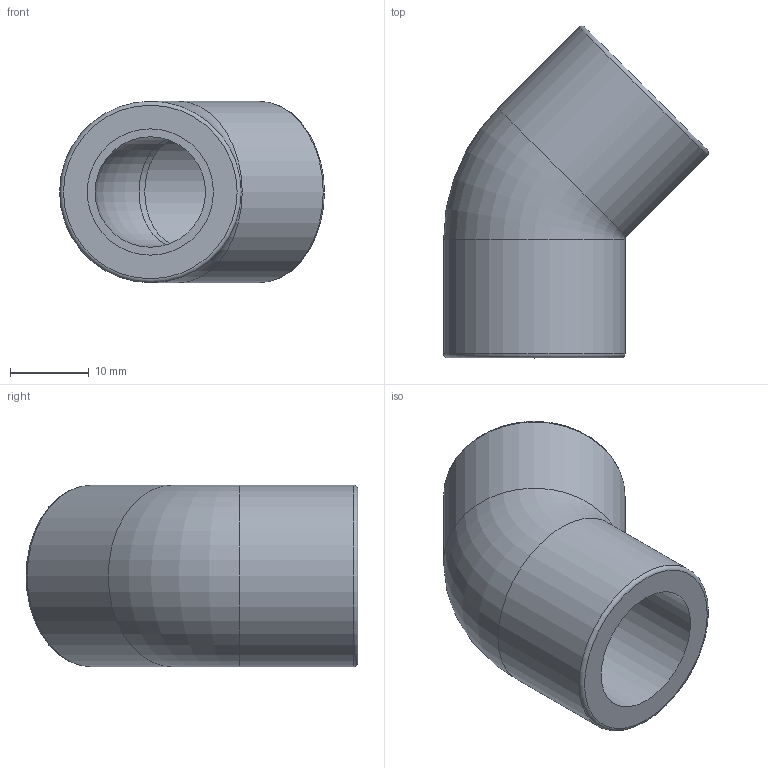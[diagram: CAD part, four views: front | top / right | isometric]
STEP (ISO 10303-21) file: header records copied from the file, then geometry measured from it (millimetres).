
FILE_DESCRIPTION(/* description */ ('PVC gomito a 45° incollaggio metrico'),/* implementation_level */ '2;1');
FILE_NAME(/* name */ 'C:\Users\POLYPIPE\Desktop\DATASET INVENTOR\LIBRERIA EFFAST\RACCORDI 3DxWEB\RDR\3D_RDRGYD\3D_RDRGYD0160.stp',/* time_stamp */ '2018-01-19T14:33:26+01:00',/* author */ ('POLYPIPE'),/* organization */ ('Polypipe Italia s.r.l.'),/* preprocessor_version */ 'ST-DEVELOPER v16.1',/* originating_system */ 'Autodesk Inventor 2016',/* authorisation */ '');
FILE_SCHEMA (('CONFIG_CONTROL_DESIGN'));
Length unit declared in the file: millimetre
Products named in the file (1): 3D_RDRGYD
Bounding box: 33.57 x 42.07 x 23 mm (x, y, z)
Volume: 8999.3 mm3; surface area: 5257.3 mm2
Topology: 1 solids, 1 shells, 14 faces, 24 edges, 14 vertices
Faces by surface type: cylinder 6, torus 4, plane 4
Full cylindrical faces by diameter (mm): 14 x2, 16 x2, 23 x2
Entity records: 312 total; most frequent: DIRECTION 58, CARTESIAN_POINT 43, AXIS2_PLACEMENT_3D 29, EDGE_LOOP 28, ORIENTED_EDGE 28, FACE_BOUND 14, FACE_OUTER_BOUND 14, CIRCLE 14
